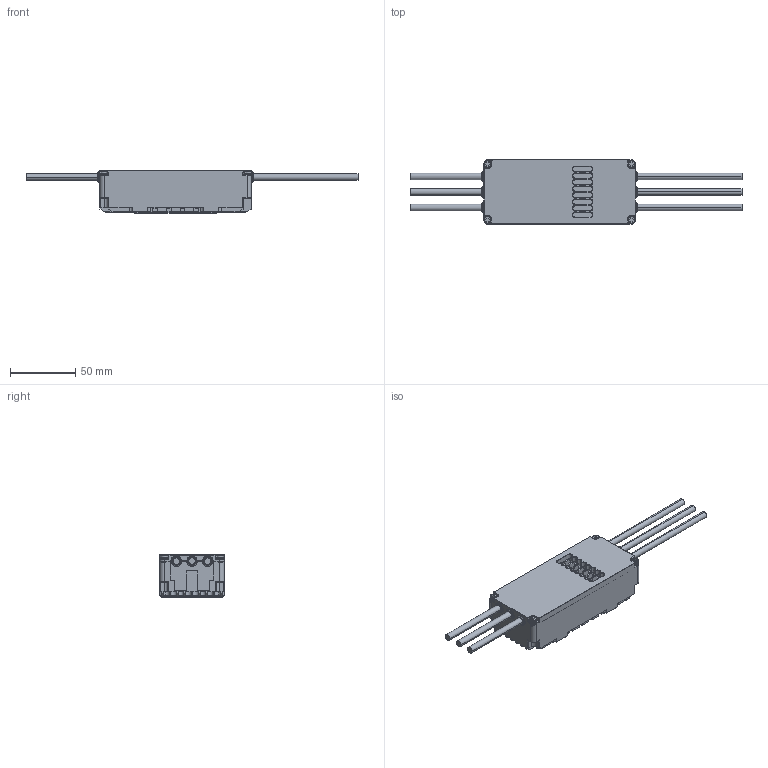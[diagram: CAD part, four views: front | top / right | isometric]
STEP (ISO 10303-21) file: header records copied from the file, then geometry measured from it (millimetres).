
FILE_DESCRIPTION((''),'2;1');
FILE_NAME('HW5110-DK_1_1','2023-03-03T09:51:06',('22429'),(''),'CREO PARAMETRIC BY PTC INC, 2021063','CREO PARAMETRIC BY PTC INC, 2021063','');
FILE_SCHEMA(('CONFIG_CONTROL_DESIGN'));
Products named in the file (1): HW5110-DK_1_1
Bounding box: 254.21 x 49.4 x 32.8 mm (x, y, z)
Volume: 61387.6 mm3; surface area: 63204.7 mm2
Topology: 1 solids, 1 shells, 2170 faces, 5764 edges, 3744 vertices
Faces by surface type: plane 1316, cylinder 559, cone 229, bspline 58, torus 8
Entity records: 85314 total; most frequent: CARTESIAN_POINT 30652, ORIENTED_EDGE 11512, DIRECTION 11299, EDGE_CURVE 5756, AXIS2_PLACEMENT_3D 3826, VERTEX_POINT 3744, VECTOR 3647, LINE 3647
